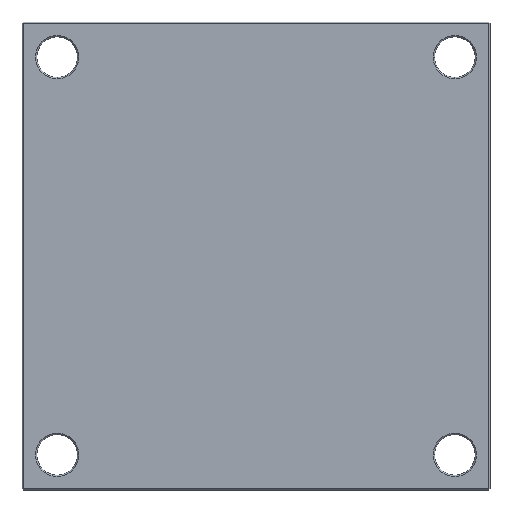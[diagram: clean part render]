
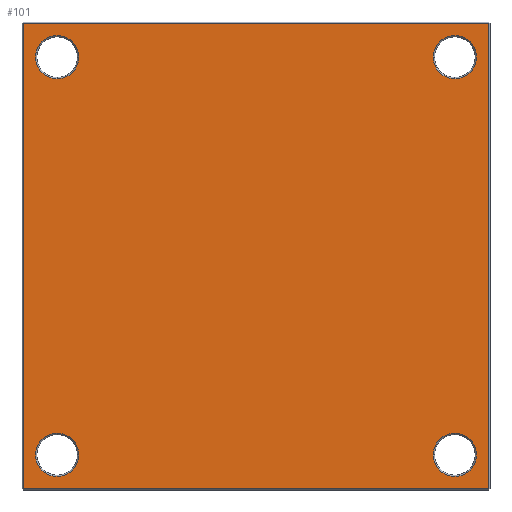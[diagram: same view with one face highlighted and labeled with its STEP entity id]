
A CAD part, front view. The second image highlights one B-rep face of the part: STEP entity #101.
In plain terms, the highlighted planar face has unit normal (0, -1, 0).
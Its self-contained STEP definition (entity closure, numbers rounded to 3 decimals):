
#34 = EDGE_LOOP ( 'NONE', ( #1294, #1270, #1119, #1813 ) ) ;
#55 = FACE_BOUND ( 'NONE', #1357, .T. ) ;
#63 = AXIS2_PLACEMENT_3D ( 'NONE', #605, #272, #541 ) ;
#74 = AXIS2_PLACEMENT_3D ( 'NONE', #77, #193, #833 ) ;
#77 = CARTESIAN_POINT ( 'NONE',  ( 147., 0., -147. ) ) ;
#79 = FACE_BOUND ( 'NONE', #1047, .T. ) ;
#85 = DIRECTION ( 'NONE',  ( 0., 1., 0. ) ) ;
#88 = AXIS2_PLACEMENT_3D ( 'NONE', #1731, #85, #517 ) ;
#101 = ADVANCED_FACE ( 'NONE', ( #79, #123, #55, #180, #255 ), #1584, .F. ) ;
#114 = VERTEX_POINT ( 'NONE', #282 ) ;
#123 = FACE_BOUND ( 'NONE', #1575, .T. ) ;
#132 = AXIS2_PLACEMENT_3D ( 'NONE', #1244, #1178, #2139 ) ;
#157 = CARTESIAN_POINT ( 'NONE',  ( -172., 0., 0. ) ) ;
#158 = CIRCLE ( 'NONE', #74, 16. ) ;
#180 = FACE_BOUND ( 'NONE', #447, .T. ) ;
#191 = AXIS2_PLACEMENT_3D ( 'NONE', #1785, #1807, #1865 ) ;
#193 = DIRECTION ( 'NONE',  ( 0., 1., 0. ) ) ;
#198 = AXIS2_PLACEMENT_3D ( 'NONE', #1968, #2035, #2039 ) ;
#215 = AXIS2_PLACEMENT_3D ( 'NONE', #1494, #1500, #1510 ) ;
#225 = CIRCLE ( 'NONE', #198, 16. ) ;
#226 = VERTEX_POINT ( 'NONE', #2102 ) ;
#235 = VERTEX_POINT ( 'NONE', #2007 ) ;
#255 = FACE_OUTER_BOUND ( 'NONE', #34, .T. ) ;
#272 = DIRECTION ( 'NONE',  ( 0., 1., 0. ) ) ;
#282 = CARTESIAN_POINT ( 'NONE',  ( -172., 0., -172. ) ) ;
#310 = CARTESIAN_POINT ( 'NONE',  ( -172., 0., 172. ) ) ;
#348 = AXIS2_PLACEMENT_3D ( 'NONE', #1786, #1825, #1407 ) ;
#374 = CIRCLE ( 'NONE', #63, 16. ) ;
#376 = AXIS2_PLACEMENT_3D ( 'NONE', #878, #969, #993 ) ;
#379 = CARTESIAN_POINT ( 'NONE',  ( 147., 0., -131. ) ) ;
#388 = VERTEX_POINT ( 'NONE', #912 ) ;
#447 = EDGE_LOOP ( 'NONE', ( #2157, #1355 ) ) ;
#472 = CARTESIAN_POINT ( 'NONE',  ( -147., 0., -131. ) ) ;
#517 = DIRECTION ( 'NONE',  ( 0., 0., 1. ) ) ;
#541 = DIRECTION ( 'NONE',  ( 0., 0., 1. ) ) ;
#548 = CARTESIAN_POINT ( 'NONE',  ( 172., 0., -172. ) ) ;
#580 = CIRCLE ( 'NONE', #376, 16. ) ;
#605 = CARTESIAN_POINT ( 'NONE',  ( -147., 0., -147. ) ) ;
#607 = VECTOR ( 'NONE', #2068, 1000. ) ;
#612 = CIRCLE ( 'NONE', #215, 16. ) ;
#623 = LINE ( 'NONE', #978, #2158 ) ;
#652 = CIRCLE ( 'NONE', #88, 16. ) ;
#698 = ORIENTED_EDGE ( 'NONE', *, *, #1328, .T. ) ;
#733 = VERTEX_POINT ( 'NONE', #472 ) ;
#740 = VERTEX_POINT ( 'NONE', #310 ) ;
#745 = LINE ( 'NONE', #1963, #607 ) ;
#788 = DIRECTION ( 'NONE',  ( 0., 0., -1. ) ) ;
#813 = VECTOR ( 'NONE', #788, 1000. ) ;
#827 = ORIENTED_EDGE ( 'NONE', *, *, #1192, .T. ) ;
#832 = ORIENTED_EDGE ( 'NONE', *, *, #1335, .T. ) ;
#833 = DIRECTION ( 'NONE',  ( 0., 0., 1. ) ) ;
#878 = CARTESIAN_POINT ( 'NONE',  ( -147., 0., 147. ) ) ;
#892 = VERTEX_POINT ( 'NONE', #1581 ) ;
#912 = CARTESIAN_POINT ( 'NONE',  ( 147., 0., 163. ) ) ;
#969 = DIRECTION ( 'NONE',  ( 0., 1., 0. ) ) ;
#978 = CARTESIAN_POINT ( 'NONE',  ( 0., 0., -172. ) ) ;
#993 = DIRECTION ( 'NONE',  ( 0., 0., 1. ) ) ;
#1047 = EDGE_LOOP ( 'NONE', ( #827, #832 ) ) ;
#1119 = ORIENTED_EDGE ( 'NONE', *, *, #1422, .T. ) ;
#1178 = DIRECTION ( 'NONE',  ( 0., 1., 0. ) ) ;
#1191 = CARTESIAN_POINT ( 'NONE',  ( -147., 0., 131. ) ) ;
#1192 = EDGE_CURVE ( 'NONE', #226, #733, #612, .T. ) ;
#1209 = EDGE_CURVE ( 'NONE', #1222, #388, #1822, .T. ) ;
#1212 = EDGE_CURVE ( 'NONE', #235, #1696, #225, .T. ) ;
#1222 = VERTEX_POINT ( 'NONE', #1901 ) ;
#1244 = CARTESIAN_POINT ( 'NONE',  ( 147., 0., 147. ) ) ;
#1262 = ORIENTED_EDGE ( 'NONE', *, *, #1314, .T. ) ;
#1270 = ORIENTED_EDGE ( 'NONE', *, *, #1306, .T. ) ;
#1277 = EDGE_CURVE ( 'NONE', #114, #1903, #623, .T. ) ;
#1294 = ORIENTED_EDGE ( 'NONE', *, *, #1307, .T. ) ;
#1306 = EDGE_CURVE ( 'NONE', #892, #740, #1962, .T. ) ;
#1307 = EDGE_CURVE ( 'NONE', #1903, #892, #745, .T. ) ;
#1314 = EDGE_CURVE ( 'NONE', #388, #1222, #2104, .T. ) ;
#1323 = EDGE_CURVE ( 'NONE', #1893, #1659, #652, .T. ) ;
#1328 = EDGE_CURVE ( 'NONE', #1696, #235, #158, .T. ) ;
#1335 = EDGE_CURVE ( 'NONE', #733, #226, #374, .T. ) ;
#1355 = ORIENTED_EDGE ( 'NONE', *, *, #1323, .T. ) ;
#1357 = EDGE_LOOP ( 'NONE', ( #1376, #1262 ) ) ;
#1376 = ORIENTED_EDGE ( 'NONE', *, *, #1209, .T. ) ;
#1377 = DIRECTION ( 'NONE',  ( 1., 0., 0. ) ) ;
#1407 = DIRECTION ( 'NONE',  ( 0., 0., 1. ) ) ;
#1422 = EDGE_CURVE ( 'NONE', #740, #114, #1657, .T. ) ;
#1468 = VECTOR ( 'NONE', #1910, 1000. ) ;
#1494 = CARTESIAN_POINT ( 'NONE',  ( -147., 0., -147. ) ) ;
#1500 = DIRECTION ( 'NONE',  ( 0., 1., 0. ) ) ;
#1510 = DIRECTION ( 'NONE',  ( 0., 0., 1. ) ) ;
#1575 = EDGE_LOOP ( 'NONE', ( #2054, #698 ) ) ;
#1581 = CARTESIAN_POINT ( 'NONE',  ( 172., 0., 172. ) ) ;
#1584 = PLANE ( 'NONE',  #348 ) ;
#1657 = LINE ( 'NONE', #157, #813 ) ;
#1659 = VERTEX_POINT ( 'NONE', #1191 ) ;
#1696 = VERTEX_POINT ( 'NONE', #379 ) ;
#1731 = CARTESIAN_POINT ( 'NONE',  ( -147., 0., 147. ) ) ;
#1785 = CARTESIAN_POINT ( 'NONE',  ( 147., 0., 147. ) ) ;
#1786 = CARTESIAN_POINT ( 'NONE',  ( 0., 0., 0. ) ) ;
#1794 = CARTESIAN_POINT ( 'NONE',  ( 0., 0., 172. ) ) ;
#1807 = DIRECTION ( 'NONE',  ( 0., 1., 0. ) ) ;
#1813 = ORIENTED_EDGE ( 'NONE', *, *, #1277, .T. ) ;
#1822 = CIRCLE ( 'NONE', #191, 16. ) ;
#1825 = DIRECTION ( 'NONE',  ( 0., 1., 0. ) ) ;
#1865 = DIRECTION ( 'NONE',  ( 0., 0., 1. ) ) ;
#1893 = VERTEX_POINT ( 'NONE', #1931 ) ;
#1901 = CARTESIAN_POINT ( 'NONE',  ( 147., 0., 131. ) ) ;
#1903 = VERTEX_POINT ( 'NONE', #548 ) ;
#1910 = DIRECTION ( 'NONE',  ( -1., 0., 0. ) ) ;
#1931 = CARTESIAN_POINT ( 'NONE',  ( -147., 0., 163. ) ) ;
#1938 = EDGE_CURVE ( 'NONE', #1659, #1893, #580, .T. ) ;
#1962 = LINE ( 'NONE', #1794, #1468 ) ;
#1963 = CARTESIAN_POINT ( 'NONE',  ( 172., 0., 0. ) ) ;
#1968 = CARTESIAN_POINT ( 'NONE',  ( 147., 0., -147. ) ) ;
#2007 = CARTESIAN_POINT ( 'NONE',  ( 147., 0., -163. ) ) ;
#2035 = DIRECTION ( 'NONE',  ( 0., 1., 0. ) ) ;
#2039 = DIRECTION ( 'NONE',  ( 0., 0., 1. ) ) ;
#2054 = ORIENTED_EDGE ( 'NONE', *, *, #1212, .T. ) ;
#2068 = DIRECTION ( 'NONE',  ( 0., 0., 1. ) ) ;
#2102 = CARTESIAN_POINT ( 'NONE',  ( -147., 0., -163. ) ) ;
#2104 = CIRCLE ( 'NONE', #132, 16. ) ;
#2139 = DIRECTION ( 'NONE',  ( 0., 0., 1. ) ) ;
#2157 = ORIENTED_EDGE ( 'NONE', *, *, #1938, .T. ) ;
#2158 = VECTOR ( 'NONE', #1377, 1000. ) ;
